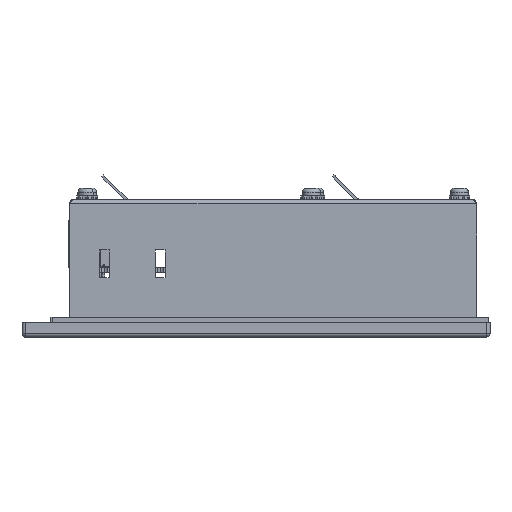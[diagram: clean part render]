
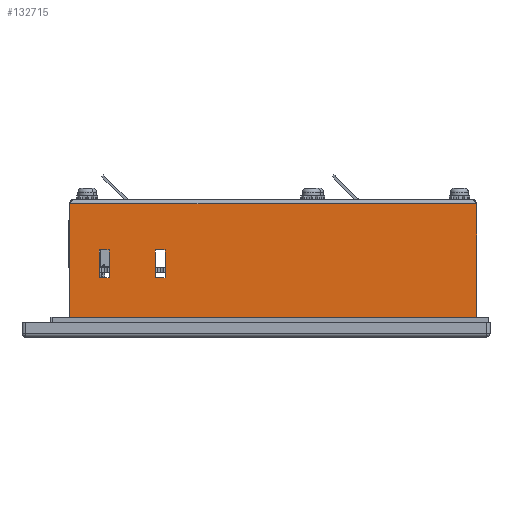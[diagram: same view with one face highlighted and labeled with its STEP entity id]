
A CAD part, left-side view. The second image highlights one B-rep face of the part: STEP entity #132715.
In plain terms, the highlighted planar face has unit normal (-1, 0, 0) as drawn and (1, 0, 0) by its records, which use the part's own axes.
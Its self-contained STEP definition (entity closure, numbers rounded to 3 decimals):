
#423 = ORIENTED_EDGE ( 'NONE', *, *, #82632, .F. ) ;
#1852 = EDGE_CURVE ( 'NONE', #31910, #188433, #152228, .T. ) ;
#2671 = DIRECTION ( 'NONE',  ( 0., 0., 1. ) ) ;
#3102 = CARTESIAN_POINT ( 'NONE',  ( 167.2, -36.6, -122.8 ) ) ;
#4405 = CARTESIAN_POINT ( 'NONE',  ( 167.2, -0.6, -122.8 ) ) ;
#5024 = CARTESIAN_POINT ( 'NONE',  ( 167.2, -14.6, -28.16 ) ) ;
#6075 = LINE ( 'NONE', #115899, #157990 ) ;
#7200 = EDGE_CURVE ( 'NONE', #52076, #163887, #111182, .T. ) ;
#7413 = DIRECTION ( 'NONE',  ( 0., -1., 0. ) ) ;
#9782 = LINE ( 'NONE', #118131, #173163 ) ;
#11381 = DIRECTION ( 'NONE',  ( 0., 1., 0. ) ) ;
#12976 = CARTESIAN_POINT ( 'NONE',  ( 167.2, -23.1, -28.16 ) ) ;
#22521 = DIRECTION ( 'NONE',  ( 0., 0., -1. ) ) ;
#24396 = CARTESIAN_POINT ( 'NONE',  ( 167.2, -0.6, 0. ) ) ;
#25224 = CARTESIAN_POINT ( 'NONE',  ( 167.2, -14.6, -28.16 ) ) ;
#27462 = DIRECTION ( 'NONE',  ( 0., 0., -1. ) ) ;
#28654 = ORIENTED_EDGE ( 'NONE', *, *, #135520, .T. ) ;
#29872 = VECTOR ( 'NONE', #182215, 1000. ) ;
#30182 = ORIENTED_EDGE ( 'NONE', *, *, #105343, .F. ) ;
#30511 = CARTESIAN_POINT ( 'NONE',  ( 167.2, -23.1, -11.16 ) ) ;
#31910 = VERTEX_POINT ( 'NONE', #117815 ) ;
#35637 = CARTESIAN_POINT ( 'NONE',  ( 167.2, -0.6, 0.8 ) ) ;
#38228 = EDGE_CURVE ( 'NONE', #111427, #52076, #68995, .T. ) ;
#38630 = CARTESIAN_POINT ( 'NONE',  ( 167.2, 0., 0. ) ) ;
#38920 = DIRECTION ( 'NONE',  ( 0., -1., 0. ) ) ;
#41571 = CARTESIAN_POINT ( 'NONE',  ( 167.2, -14.6, -25.16 ) ) ;
#44581 = LINE ( 'NONE', #96155, #189525 ) ;
#50928 = CARTESIAN_POINT ( 'NONE',  ( 167.2, -23.1, -25.16 ) ) ;
#52076 = VERTEX_POINT ( 'NONE', #12976 ) ;
#56737 = VERTEX_POINT ( 'NONE', #3102 ) ;
#57427 = LINE ( 'NONE', #70596, #131105 ) ;
#61598 = VECTOR ( 'NONE', #140837, 1000. ) ;
#62800 = CARTESIAN_POINT ( 'NONE',  ( 167.2, -23.1, -8.16 ) ) ;
#65410 = LINE ( 'NONE', #82564, #102197 ) ;
#68995 = LINE ( 'NONE', #50928, #29872 ) ;
#69543 = FACE_OUTER_BOUND ( 'NONE', #127044, .T. ) ;
#70596 = CARTESIAN_POINT ( 'NONE',  ( 167.2, -23.1, -8.16 ) ) ;
#75436 = VECTOR ( 'NONE', #11381, 1000. ) ;
#78644 = ORIENTED_EDGE ( 'NONE', *, *, #107351, .F. ) ;
#81576 = CARTESIAN_POINT ( 'NONE',  ( 167.2, -14.6, -8.16 ) ) ;
#82564 = CARTESIAN_POINT ( 'NONE',  ( 167.2, -14.6, -8.16 ) ) ;
#82632 = EDGE_CURVE ( 'NONE', #123144, #85969, #110083, .T. ) ;
#83082 = VECTOR ( 'NONE', #22521, 1000. ) ;
#84636 = VERTEX_POINT ( 'NONE', #181767 ) ;
#85969 = VERTEX_POINT ( 'NONE', #109227 ) ;
#96155 = CARTESIAN_POINT ( 'NONE',  ( 167.2, -0.6, -122.8 ) ) ;
#97787 = DIRECTION ( 'NONE',  ( 0., -1., 0. ) ) ;
#100964 = ORIENTED_EDGE ( 'NONE', *, *, #174761, .F. ) ;
#101432 = VECTOR ( 'NONE', #2671, 1000. ) ;
#102197 = VECTOR ( 'NONE', #7413, 1000. ) ;
#105343 = EDGE_CURVE ( 'NONE', #163887, #133287, #184372, .T. ) ;
#106304 = VERTEX_POINT ( 'NONE', #62800 ) ;
#106546 = ORIENTED_EDGE ( 'NONE', *, *, #157393, .F. ) ;
#107310 = ORIENTED_EDGE ( 'NONE', *, *, #138846, .F. ) ;
#107351 = EDGE_CURVE ( 'NONE', #133287, #111427, #6075, .T. ) ;
#108710 = CARTESIAN_POINT ( 'NONE',  ( 167.2, -23.1, -25.16 ) ) ;
#108793 = FACE_BOUND ( 'NONE', #110726, .T. ) ;
#109227 = CARTESIAN_POINT ( 'NONE',  ( 167.2, -14.6, -11.16 ) ) ;
#110083 = LINE ( 'NONE', #115016, #75436 ) ;
#110726 = EDGE_LOOP ( 'NONE', ( #143806, #78644, #30182, #181521 ) ) ;
#111159 = ORIENTED_EDGE ( 'NONE', *, *, #138884, .F. ) ;
#111182 = LINE ( 'NONE', #5024, #168737 ) ;
#111427 = VERTEX_POINT ( 'NONE', #108710 ) ;
#114725 = LINE ( 'NONE', #35637, #188377 ) ;
#115016 = CARTESIAN_POINT ( 'NONE',  ( 167.2, -14.6, -11.16 ) ) ;
#115899 = CARTESIAN_POINT ( 'NONE',  ( 167.2, -14.6, -25.16 ) ) ;
#117815 = CARTESIAN_POINT ( 'NONE',  ( 167.2, -0.6, 0.8 ) ) ;
#118131 = CARTESIAN_POINT ( 'NONE',  ( 167.2, -36.6, -122. ) ) ;
#122089 = DIRECTION ( 'NONE',  ( 0., 1., 0. ) ) ;
#122538 = DIRECTION ( 'NONE',  ( 0., -1., 0. ) ) ;
#123144 = VERTEX_POINT ( 'NONE', #30511 ) ;
#125478 = PLANE ( 'NONE',  #156069 ) ;
#127044 = EDGE_LOOP ( 'NONE', ( #28654, #111159, #178704, #168202 ) ) ;
#128576 = DIRECTION ( 'NONE',  ( 0., 0., -1. ) ) ;
#131105 = VECTOR ( 'NONE', #128576, 1000. ) ;
#132715 = ADVANCED_FACE ( 'NONE', ( #108793, #157084, #69543 ), #125478, .F. ) ;
#133287 = VERTEX_POINT ( 'NONE', #41571 ) ;
#135343 = LINE ( 'NONE', #81576, #61598 ) ;
#135520 = EDGE_CURVE ( 'NONE', #186357, #56737, #9782, .T. ) ;
#137049 = EDGE_LOOP ( 'NONE', ( #106546, #107310, #100964, #423 ) ) ;
#138791 = CARTESIAN_POINT ( 'NONE',  ( 167.2, -36.6, 0.8 ) ) ;
#138846 = EDGE_CURVE ( 'NONE', #84636, #106304, #65410, .T. ) ;
#138884 = EDGE_CURVE ( 'NONE', #188433, #56737, #44581, .T. ) ;
#140837 = DIRECTION ( 'NONE',  ( 0., 0., 1. ) ) ;
#141521 = DIRECTION ( 'NONE',  ( -1., 0., 0. ) ) ;
#143806 = ORIENTED_EDGE ( 'NONE', *, *, #38228, .F. ) ;
#149950 = CARTESIAN_POINT ( 'NONE',  ( 167.2, -14.6, -25.16 ) ) ;
#152228 = LINE ( 'NONE', #24396, #83082 ) ;
#156069 = AXIS2_PLACEMENT_3D ( 'NONE', #38630, #141521, #97787 ) ;
#157084 = FACE_BOUND ( 'NONE', #137049, .T. ) ;
#157393 = EDGE_CURVE ( 'NONE', #106304, #123144, #57427, .T. ) ;
#157990 = VECTOR ( 'NONE', #174397, 1000. ) ;
#163641 = EDGE_CURVE ( 'NONE', #31910, #186357, #114725, .T. ) ;
#163887 = VERTEX_POINT ( 'NONE', #25224 ) ;
#168202 = ORIENTED_EDGE ( 'NONE', *, *, #163641, .T. ) ;
#168737 = VECTOR ( 'NONE', #122089, 1000. ) ;
#173163 = VECTOR ( 'NONE', #27462, 1000. ) ;
#174397 = DIRECTION ( 'NONE',  ( 0., -1., 0. ) ) ;
#174761 = EDGE_CURVE ( 'NONE', #85969, #84636, #135343, .T. ) ;
#178704 = ORIENTED_EDGE ( 'NONE', *, *, #1852, .F. ) ;
#181521 = ORIENTED_EDGE ( 'NONE', *, *, #7200, .F. ) ;
#181767 = CARTESIAN_POINT ( 'NONE',  ( 167.2, -14.6, -8.16 ) ) ;
#182215 = DIRECTION ( 'NONE',  ( 0., 0., -1. ) ) ;
#184372 = LINE ( 'NONE', #149950, #101432 ) ;
#186357 = VERTEX_POINT ( 'NONE', #138791 ) ;
#188377 = VECTOR ( 'NONE', #122538, 1000. ) ;
#188433 = VERTEX_POINT ( 'NONE', #4405 ) ;
#189525 = VECTOR ( 'NONE', #38920, 1000. ) ;
